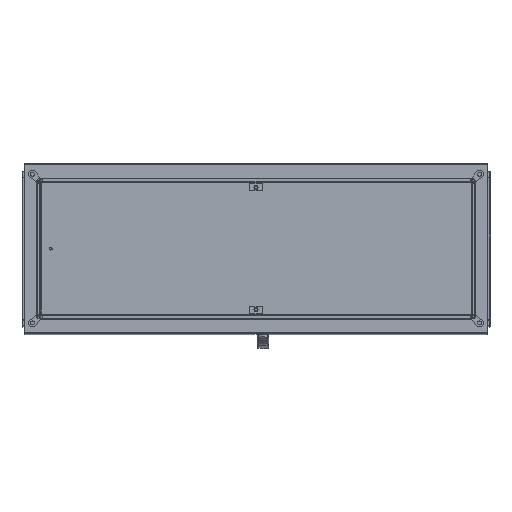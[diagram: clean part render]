
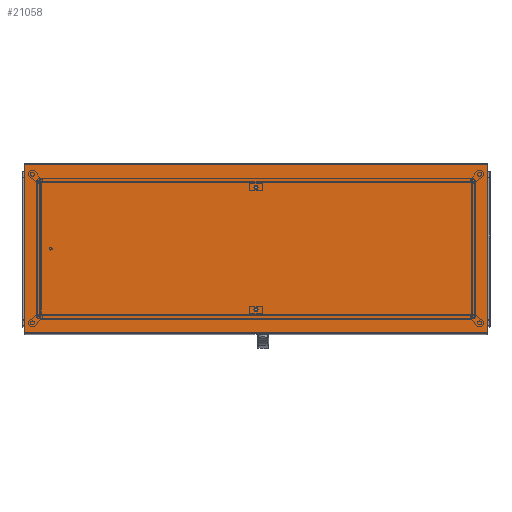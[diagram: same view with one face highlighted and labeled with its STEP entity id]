
A CAD part, top view. The second image highlights one B-rep face of the part: STEP entity #21058.
In plain terms, the highlighted planar face has unit normal (0, 0, 1) as drawn and (0, -1, 0) by its records, which use the part's own axes.
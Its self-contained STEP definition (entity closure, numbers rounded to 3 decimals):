
#1356=CIRCLE('',#22985,6.318);
#1357=CIRCLE('',#22986,6.318);
#6040=ORIENTED_EDGE('',*,*,#9960,.F.);
#6041=ORIENTED_EDGE('',*,*,#9973,.F.);
#6042=ORIENTED_EDGE('',*,*,#9919,.F.);
#6043=ORIENTED_EDGE('',*,*,#9966,.F.);
#6044=ORIENTED_EDGE('',*,*,#9980,.F.);
#6045=ORIENTED_EDGE('',*,*,#9981,.F.);
#9919=EDGE_CURVE('',#12225,#12226,#14271,.T.);
#9960=EDGE_CURVE('',#12260,#12261,#14301,.T.);
#9966=EDGE_CURVE('',#12261,#12225,#14306,.T.);
#9973=EDGE_CURVE('',#12226,#12260,#14313,.T.);
#9980=EDGE_CURVE('',#12274,#12274,#1356,.T.);
#9981=EDGE_CURVE('',#12275,#12275,#1357,.T.);
#12225=VERTEX_POINT('',#34695);
#12226=VERTEX_POINT('',#34697);
#12260=VERTEX_POINT('',#34775);
#12261=VERTEX_POINT('',#34777);
#12274=VERTEX_POINT('',#34813);
#12275=VERTEX_POINT('',#34815);
#14271=LINE('',#34696,#16340);
#14301=LINE('',#34776,#16370);
#14306=LINE('',#34788,#16375);
#14313=LINE('',#34800,#16382);
#16340=VECTOR('',#27963,1000.);
#16370=VECTOR('',#28023,1000.);
#16375=VECTOR('',#28032,1000.);
#16382=VECTOR('',#28041,1000.);
#17845=EDGE_LOOP('',(#6040,#6041,#6042,#6043));
#17846=EDGE_LOOP('',(#6044));
#17847=EDGE_LOOP('',(#6045));
#19148=FACE_BOUND('',#17845,.T.);
#19149=FACE_BOUND('',#17846,.T.);
#19150=FACE_BOUND('',#17847,.T.);
#20018=PLANE('',#22984);
#21058=ADVANCED_FACE('',(#19148,#19149,#19150),#20018,.F.);
#22984=AXIS2_PLACEMENT_3D('',#34811,#28048,#28049);
#22985=AXIS2_PLACEMENT_3D('',#34812,#28050,#28051);
#22986=AXIS2_PLACEMENT_3D('',#34814,#28052,#28053);
#27963=DIRECTION('',(1.,0.,0.));
#28023=DIRECTION('',(-1.,0.,0.));
#28032=DIRECTION('',(0.,0.,1.));
#28041=DIRECTION('',(0.,0.,-1.));
#28048=DIRECTION('',(0.,1.,0.));
#28049=DIRECTION('',(0.,0.,1.));
#28050=DIRECTION('',(0.,-1.,0.));
#28051=DIRECTION('',(0.,0.,-1.));
#28052=DIRECTION('',(0.,-1.,0.));
#28053=DIRECTION('',(0.,0.,-1.));
#34695=CARTESIAN_POINT('',(-699.5,0.,255.5));
#34696=CARTESIAN_POINT('',(-699.5,0.,255.5));
#34697=CARTESIAN_POINT('',(699.5,0.,255.5));
#34775=CARTESIAN_POINT('',(699.5,0.,-255.5));
#34776=CARTESIAN_POINT('',(699.5,0.,-255.5));
#34777=CARTESIAN_POINT('',(-699.5,0.,-255.5));
#34788=CARTESIAN_POINT('',(-699.5,0.,-255.5));
#34800=CARTESIAN_POINT('',(699.5,0.,255.5));
#34811=CARTESIAN_POINT('',(0.,0.,0.));
#34812=CARTESIAN_POINT('',(0.,0.,184.));
#34813=CARTESIAN_POINT('',(0.,0.,177.682));
#34814=CARTESIAN_POINT('',(0.,0.,-184.));
#34815=CARTESIAN_POINT('',(0.,0.,-190.318));
